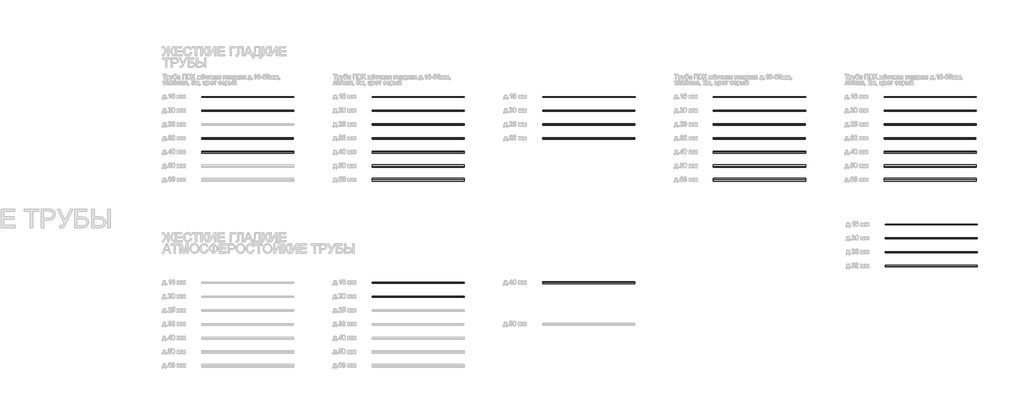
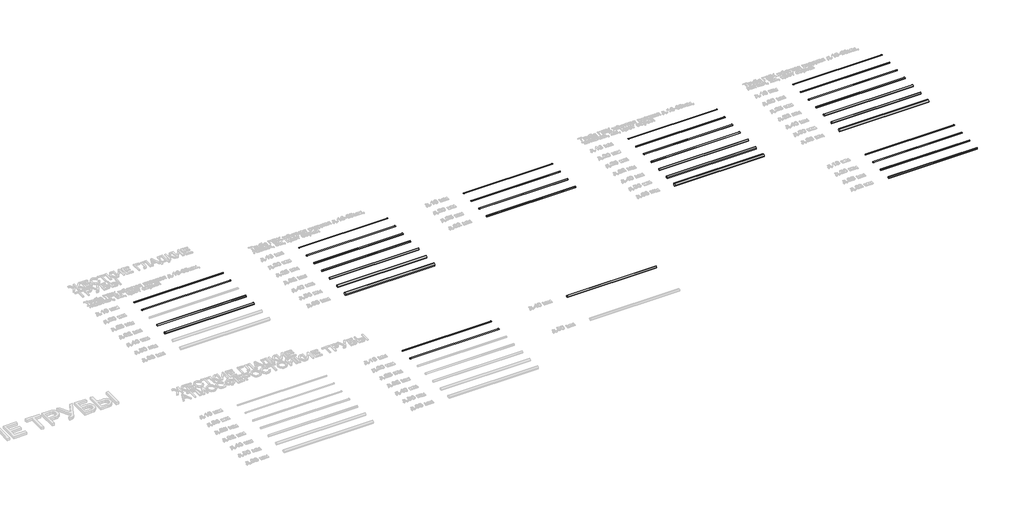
# One storey, part 4 of 98: 36 cable carrier segments.
"""IFC4 building model written with IfcOpenShell, lengths in millimetres."""

from ifc_helpers import new_model, si_unit, point, frame, frame_2d, origin, place, context, project, spatial, circle_curve, trimmed, segment, composite_curve, outline, extrude, element, save

model = new_model("IFC4")

# Units and contexts
model_context = context("Model", 3, world=origin())
ifc_project = project(units=[si_unit("LENGTHUNIT", "METRE", prefix="MILLI")], contexts=[model_context])

# Site, building, storey
site = spatial("IfcSite", under=ifc_project)
building = spatial("IfcBuilding", under=site)
storey = spatial("IfcBuildingStorey", under=building, Name="Этаж 01", Elevation=0.0)

# Cable carrier segments
placement = place(None, origin())
element("IfcCableCarrierSegment", 1, ObjectType="КНС_Труба ПВХ жёсткая гладкая_DKC_д.16-63мм тяжёлая 3м цвет серый", at=placement, inside=storey, context=model_context, shape_type="SweptSolid", body=[
    extrude(outline(composite_curve([segment(trimmed(circle_curve(frame_2d((-3603.5230932, 0.0)), 8.0), [point((-3611.5230932, 0.0))], [point((-3603.5230932, 8.0))], False, "CARTESIAN"), True, "CONTINUOUS"), segment(trimmed(circle_curve(frame_2d((-3603.5230932, 0.0)), 8.0), [point((-3603.5230932, 8.0))], [point((-3595.5230932, 0.0))], False, "CARTESIAN"), True, "CONTINUOUS"), segment(trimmed(circle_curve(frame_2d((-3603.5230932, 0.0)), 8.0), [point((-3595.5230932, 0.0))], [point((-3603.5230932, -8.0))], False, "CARTESIAN"), True, "CONTINUOUS"), segment(trimmed(circle_curve(frame_2d((-3603.5230932, 0.0)), 8.0), [point((-3603.5230932, -8.0))], [point((-3611.5230932, 0.0))], False, "CARTESIAN"), True, "CONTINUOUS")], self_intersect=False)), frame((803.8155149, 0.0, 0.0), z_axis=(1.0, 0.0, 0.0), x_axis=(0.0, 1.0, 0.0)), (0.0, 0.0, 1.0), 2000.0),
])
element("IfcCableCarrierSegment", 2, ObjectType="КНС_Труба ПВХ жёсткая гладкая_DKC_д.16-63мм тяжёлая 3м цвет серый", at=placement, inside=storey, context=model_context, shape_type="SweptSolid", body=[
    extrude(outline(composite_curve([segment(trimmed(circle_curve(frame_2d((-3903.5230932, 0.0)), 10.0), [point((-3913.5230932, 0.0))], [point((-3903.5230932, 10.0))], False, "CARTESIAN"), True, "CONTINUOUS"), segment(trimmed(circle_curve(frame_2d((-3903.5230932, 0.0)), 10.0), [point((-3903.5230932, 10.0))], [point((-3893.5230932, 0.0))], False, "CARTESIAN"), True, "CONTINUOUS"), segment(trimmed(circle_curve(frame_2d((-3903.5230932, 0.0)), 10.0), [point((-3893.5230932, 0.0))], [point((-3903.5230932, -10.0))], False, "CARTESIAN"), True, "CONTINUOUS"), segment(trimmed(circle_curve(frame_2d((-3903.5230932, 0.0)), 10.0), [point((-3903.5230932, -10.0))], [point((-3913.5230932, 0.0))], False, "CARTESIAN"), True, "CONTINUOUS")], self_intersect=False)), frame((803.8155149, 0.0, 0.0), z_axis=(1.0, 0.0, 0.0), x_axis=(0.0, 1.0, 0.0)), (0.0, 0.0, 1.0), 1998.0),
])
element("IfcCableCarrierSegment", 3, ObjectType="КНС_Труба ПВХ жёсткая гладкая_DKC_д.16-63мм тяжёлая 3м цвет серый", at=placement, inside=storey, context=model_context, shape_type="SweptSolid", body=[
    extrude(outline(composite_curve([segment(trimmed(circle_curve(frame_2d((-4503.5230932, 0.0)), 16.0), [point((-4519.5230932, 0.0))], [point((-4503.5230932, 16.0))], False, "CARTESIAN"), True, "CONTINUOUS"), segment(trimmed(circle_curve(frame_2d((-4503.5230932, 0.0)), 16.0), [point((-4503.5230932, 16.0))], [point((-4487.5230932, 0.0))], False, "CARTESIAN"), True, "CONTINUOUS"), segment(trimmed(circle_curve(frame_2d((-4503.5230932, 0.0)), 16.0), [point((-4487.5230932, 0.0))], [point((-4503.5230932, -16.0))], False, "CARTESIAN"), True, "CONTINUOUS"), segment(trimmed(circle_curve(frame_2d((-4503.5230932, 0.0)), 16.0), [point((-4503.5230932, -16.0))], [point((-4519.5230932, 0.0))], False, "CARTESIAN"), True, "CONTINUOUS")], self_intersect=False)), frame((803.8155149, 0.0, 0.0), z_axis=(1.0, 0.0, 0.0), x_axis=(0.0, 1.0, 0.0)), (0.0, 0.0, 1.0), 1991.0),
])
element("IfcCableCarrierSegment", 4, ObjectType="КНС_Труба ПВХ жёсткая гладкая_DKC_д.16-63мм тяжёлая 3м цвет серый", at=placement, inside=storey, context=model_context, shape_type="SweptSolid", body=[
    extrude(outline(composite_curve([segment(trimmed(circle_curve(frame_2d((-4803.5230932, 0.0)), 20.0), [point((-4823.5230932, 0.0))], [point((-4803.5230932, 20.0))], False, "CARTESIAN"), True, "CONTINUOUS"), segment(trimmed(circle_curve(frame_2d((-4803.5230932, 0.0)), 20.0), [point((-4803.5230932, 20.0))], [point((-4783.5230932, 0.0))], False, "CARTESIAN"), True, "CONTINUOUS"), segment(trimmed(circle_curve(frame_2d((-4803.5230932, 0.0)), 20.0), [point((-4783.5230932, 0.0))], [point((-4803.5230932, -20.0))], False, "CARTESIAN"), True, "CONTINUOUS"), segment(trimmed(circle_curve(frame_2d((-4803.5230932, 0.0)), 20.0), [point((-4803.5230932, -20.0))], [point((-4823.5230932, 0.0))], False, "CARTESIAN"), True, "CONTINUOUS")], self_intersect=False)), frame((803.8155149, 0.0, 0.0), z_axis=(1.0, 0.0, 0.0), x_axis=(0.0, 1.0, 0.0)), (0.0, 0.0, 1.0), 2000.0),
])
element("IfcCableCarrierSegment", 5, ObjectType="КНС_Труба ПВХ жёсткая гладкая_DKC_д.16-63мм лёгкая 3м цвет серый", at=placement, inside=storey, context=model_context, shape_type="SweptSolid", body=[
    extrude(outline(composite_curve([segment(trimmed(circle_curve(frame_2d((-3603.5230932, 0.0)), 8.0), [point((-3611.5230932, 0.0))], [point((-3603.5230932, 8.0))], False, "CARTESIAN"), True, "CONTINUOUS"), segment(trimmed(circle_curve(frame_2d((-3603.5230932, 0.0)), 8.0), [point((-3603.5230932, 8.0))], [point((-3595.5230932, 0.0))], False, "CARTESIAN"), True, "CONTINUOUS"), segment(trimmed(circle_curve(frame_2d((-3603.5230932, 0.0)), 8.0), [point((-3595.5230932, 0.0))], [point((-3603.5230932, -8.0))], False, "CARTESIAN"), True, "CONTINUOUS"), segment(trimmed(circle_curve(frame_2d((-3603.5230932, 0.0)), 8.0), [point((-3603.5230932, -8.0))], [point((-3611.5230932, 0.0))], False, "CARTESIAN"), True, "CONTINUOUS")], self_intersect=False)), frame((4503.8155149, 0.0, 0.0), z_axis=(1.0, 0.0, 0.0), x_axis=(0.0, 1.0, 0.0)), (0.0, 0.0, 1.0), 2000.0),
])
element("IfcCableCarrierSegment", 6, ObjectType="КНС_Труба ПВХ жёсткая гладкая_DKC_д.16-63мм лёгкая 3м цвет серый", at=placement, inside=storey, context=model_context, shape_type="SweptSolid", body=[
    extrude(outline(composite_curve([segment(trimmed(circle_curve(frame_2d((-3903.5230932, 0.0)), 10.0), [point((-3913.5230932, 0.0))], [point((-3903.5230932, 10.0))], False, "CARTESIAN"), True, "CONTINUOUS"), segment(trimmed(circle_curve(frame_2d((-3903.5230932, 0.0)), 10.0), [point((-3903.5230932, 10.0))], [point((-3893.5230932, 0.0))], False, "CARTESIAN"), True, "CONTINUOUS"), segment(trimmed(circle_curve(frame_2d((-3903.5230932, 0.0)), 10.0), [point((-3893.5230932, 0.0))], [point((-3903.5230932, -10.0))], False, "CARTESIAN"), True, "CONTINUOUS"), segment(trimmed(circle_curve(frame_2d((-3903.5230932, 0.0)), 10.0), [point((-3903.5230932, -10.0))], [point((-3913.5230932, 0.0))], False, "CARTESIAN"), True, "CONTINUOUS")], self_intersect=False)), frame((4503.8155149, 0.0, 0.0), z_axis=(1.0, 0.0, 0.0), x_axis=(0.0, 1.0, 0.0)), (0.0, 0.0, 1.0), 1998.0),
])
element("IfcCableCarrierSegment", 7, ObjectType="КНС_Труба ПВХ жёсткая гладкая_DKC_д.16-63мм лёгкая 3м цвет серый", at=placement, inside=storey, context=model_context, shape_type="SweptSolid", body=[
    extrude(outline(composite_curve([segment(trimmed(circle_curve(frame_2d((-4203.5230932, 0.0)), 12.5), [point((-4216.0230932, 0.0))], [point((-4203.5230932, 12.5))], False, "CARTESIAN"), True, "CONTINUOUS"), segment(trimmed(circle_curve(frame_2d((-4203.5230932, 0.0)), 12.5), [point((-4203.5230932, 12.5))], [point((-4191.0230932, 0.0))], False, "CARTESIAN"), True, "CONTINUOUS"), segment(trimmed(circle_curve(frame_2d((-4203.5230932, 0.0)), 12.5), [point((-4191.0230932, 0.0))], [point((-4203.5230932, -12.5))], False, "CARTESIAN"), True, "CONTINUOUS"), segment(trimmed(circle_curve(frame_2d((-4203.5230932, 0.0)), 12.5), [point((-4203.5230932, -12.5))], [point((-4216.0230932, 0.0))], False, "CARTESIAN"), True, "CONTINUOUS")], self_intersect=False)), frame((4503.8155149, 0.0, 0.0), z_axis=(1.0, 0.0, 0.0), x_axis=(0.0, 1.0, 0.0)), (0.0, 0.0, 1.0), 1995.0),
])
element("IfcCableCarrierSegment", 8, ObjectType="КНС_Труба ПВХ жёсткая гладкая_DKC_д.16-63мм лёгкая 3м цвет серый", at=placement, inside=storey, context=model_context, shape_type="SweptSolid", body=[
    extrude(outline(composite_curve([segment(trimmed(circle_curve(frame_2d((-4503.5230932, 0.0)), 16.0), [point((-4519.5230932, 0.0))], [point((-4503.5230932, 16.0))], False, "CARTESIAN"), True, "CONTINUOUS"), segment(trimmed(circle_curve(frame_2d((-4503.5230932, 0.0)), 16.0), [point((-4503.5230932, 16.0))], [point((-4487.5230932, 0.0))], False, "CARTESIAN"), True, "CONTINUOUS"), segment(trimmed(circle_curve(frame_2d((-4503.5230932, 0.0)), 16.0), [point((-4487.5230932, 0.0))], [point((-4503.5230932, -16.0))], False, "CARTESIAN"), True, "CONTINUOUS"), segment(trimmed(circle_curve(frame_2d((-4503.5230932, 0.0)), 16.0), [point((-4503.5230932, -16.0))], [point((-4519.5230932, 0.0))], False, "CARTESIAN"), True, "CONTINUOUS")], self_intersect=False)), frame((4503.8155149, 0.0, 0.0), z_axis=(1.0, 0.0, 0.0), x_axis=(0.0, 1.0, 0.0)), (0.0, 0.0, 1.0), 1991.0),
])
element("IfcCableCarrierSegment", 9, ObjectType="КНС_Труба ПВХ жёсткая гладкая_DKC_д.16-63мм лёгкая 3м цвет серый", at=placement, inside=storey, context=model_context, shape_type="SweptSolid", body=[
    extrude(outline(composite_curve([segment(trimmed(circle_curve(frame_2d((-4803.5230932, 0.0)), 20.0), [point((-4823.5230932, 0.0))], [point((-4803.5230932, 20.0))], False, "CARTESIAN"), True, "CONTINUOUS"), segment(trimmed(circle_curve(frame_2d((-4803.5230932, 0.0)), 20.0), [point((-4803.5230932, 20.0))], [point((-4783.5230932, 0.0))], False, "CARTESIAN"), True, "CONTINUOUS"), segment(trimmed(circle_curve(frame_2d((-4803.5230932, 0.0)), 20.0), [point((-4783.5230932, 0.0))], [point((-4803.5230932, -20.0))], False, "CARTESIAN"), True, "CONTINUOUS"), segment(trimmed(circle_curve(frame_2d((-4803.5230932, 0.0)), 20.0), [point((-4803.5230932, -20.0))], [point((-4823.5230932, 0.0))], False, "CARTESIAN"), True, "CONTINUOUS")], self_intersect=False)), frame((4503.8155149, 0.0, 0.0), z_axis=(1.0, 0.0, 0.0), x_axis=(0.0, 1.0, 0.0)), (0.0, 0.0, 1.0), 2000.0),
])
element("IfcCableCarrierSegment", 10, ObjectType="КНС_Труба ПВХ жёсткая гладкая_DKC_д.16-63мм лёгкая 3м цвет серый", at=placement, inside=storey, context=model_context, shape_type="SweptSolid", body=[
    extrude(outline(composite_curve([segment(trimmed(circle_curve(frame_2d((-5103.5230932, 0.0)), 25.0), [point((-5128.5230932, 0.0))], [point((-5103.5230932, 25.0))], False, "CARTESIAN"), True, "CONTINUOUS"), segment(trimmed(circle_curve(frame_2d((-5103.5230932, 0.0)), 25.0), [point((-5103.5230932, 25.0))], [point((-5078.5230932, 0.0))], False, "CARTESIAN"), True, "CONTINUOUS"), segment(trimmed(circle_curve(frame_2d((-5103.5230932, 0.0)), 25.0), [point((-5078.5230932, 0.0))], [point((-5103.5230932, -25.0))], False, "CARTESIAN"), True, "CONTINUOUS"), segment(trimmed(circle_curve(frame_2d((-5103.5230932, 0.0)), 25.0), [point((-5103.5230932, -25.0))], [point((-5128.5230932, 0.0))], False, "CARTESIAN"), True, "CONTINUOUS")], self_intersect=False)), frame((4503.8155149, 0.0, 0.0), z_axis=(1.0, 0.0, 0.0), x_axis=(0.0, 1.0, 0.0)), (0.0, 0.0, 1.0), 2000.0),
])
element("IfcCableCarrierSegment", 11, ObjectType="КНС_Труба ПВХ жёсткая гладкая_DKC_д.16-63мм лёгкая 3м цвет серый", at=placement, inside=storey, context=model_context, shape_type="SweptSolid", body=[
    extrude(outline(composite_curve([segment(trimmed(circle_curve(frame_2d((-5403.5230932, 0.0)), 31.5), [point((-5435.0230932, 0.0))], [point((-5403.5230932, 31.5))], False, "CARTESIAN"), True, "CONTINUOUS"), segment(trimmed(circle_curve(frame_2d((-5403.5230932, 0.0)), 31.5), [point((-5403.5230932, 31.5))], [point((-5372.0230932, 0.0))], False, "CARTESIAN"), True, "CONTINUOUS"), segment(trimmed(circle_curve(frame_2d((-5403.5230932, 0.0)), 31.5), [point((-5372.0230932, 0.0))], [point((-5403.5230932, -31.5))], False, "CARTESIAN"), True, "CONTINUOUS"), segment(trimmed(circle_curve(frame_2d((-5403.5230932, 0.0)), 31.5), [point((-5403.5230932, -31.5))], [point((-5435.0230932, 0.0))], False, "CARTESIAN"), True, "CONTINUOUS")], self_intersect=False)), frame((4503.8155149, 0.0, 0.0), z_axis=(1.0, 0.0, 0.0), x_axis=(0.0, 1.0, 0.0)), (0.0, 0.0, 1.0), 2000.0),
])
element("IfcCableCarrierSegment", 12, ObjectType="КНС_Труба ПВХ жёсткая гладкая_DKC_д.16-32мм лёгкая 3м цвет серый (розница)", at=placement, inside=storey, context=model_context, shape_type="SweptSolid", body=[
    extrude(outline(composite_curve([segment(trimmed(circle_curve(frame_2d((-3603.5230932, 0.0)), 8.0), [point((-3611.5230932, 0.0))], [point((-3603.5230932, 8.0))], False, "CARTESIAN"), True, "CONTINUOUS"), segment(trimmed(circle_curve(frame_2d((-3603.5230932, 0.0)), 8.0), [point((-3603.5230932, 8.0))], [point((-3595.5230932, 0.0))], False, "CARTESIAN"), True, "CONTINUOUS"), segment(trimmed(circle_curve(frame_2d((-3603.5230932, 0.0)), 8.0), [point((-3595.5230932, 0.0))], [point((-3603.5230932, -8.0))], False, "CARTESIAN"), True, "CONTINUOUS"), segment(trimmed(circle_curve(frame_2d((-3603.5230932, 0.0)), 8.0), [point((-3603.5230932, -8.0))], [point((-3611.5230932, 0.0))], False, "CARTESIAN"), True, "CONTINUOUS")], self_intersect=False)), frame((8203.8155149, 0.0, 0.0), z_axis=(1.0, 0.0, 0.0), x_axis=(0.0, 1.0, 0.0)), (0.0, 0.0, 1.0), 2000.0),
])
element("IfcCableCarrierSegment", 13, ObjectType="КНС_Труба ПВХ жёсткая гладкая_DKC_д.16-32мм лёгкая 3м цвет серый (розница)", at=placement, inside=storey, context=model_context, shape_type="SweptSolid", body=[
    extrude(outline(composite_curve([segment(trimmed(circle_curve(frame_2d((-3903.5230932, 0.0)), 10.0), [point((-3913.5230932, 0.0))], [point((-3903.5230932, 10.0))], False, "CARTESIAN"), True, "CONTINUOUS"), segment(trimmed(circle_curve(frame_2d((-3903.5230932, 0.0)), 10.0), [point((-3903.5230932, 10.0))], [point((-3893.5230932, 0.0))], False, "CARTESIAN"), True, "CONTINUOUS"), segment(trimmed(circle_curve(frame_2d((-3903.5230932, 0.0)), 10.0), [point((-3893.5230932, 0.0))], [point((-3903.5230932, -10.0))], False, "CARTESIAN"), True, "CONTINUOUS"), segment(trimmed(circle_curve(frame_2d((-3903.5230932, 0.0)), 10.0), [point((-3903.5230932, -10.0))], [point((-3913.5230932, 0.0))], False, "CARTESIAN"), True, "CONTINUOUS")], self_intersect=False)), frame((8203.8155149, 0.0, 0.0), z_axis=(1.0, 0.0, 0.0), x_axis=(0.0, 1.0, 0.0)), (0.0, 0.0, 1.0), 1998.0),
])
element("IfcCableCarrierSegment", 14, ObjectType="КНС_Труба ПВХ жёсткая гладкая_DKC_д.16-32мм лёгкая 3м цвет серый (розница)", at=placement, inside=storey, context=model_context, shape_type="SweptSolid", body=[
    extrude(outline(composite_curve([segment(trimmed(circle_curve(frame_2d((-4203.5230932, 0.0)), 12.5), [point((-4216.0230932, 0.0))], [point((-4203.5230932, 12.5))], False, "CARTESIAN"), True, "CONTINUOUS"), segment(trimmed(circle_curve(frame_2d((-4203.5230932, 0.0)), 12.5), [point((-4203.5230932, 12.5))], [point((-4191.0230932, 0.0))], False, "CARTESIAN"), True, "CONTINUOUS"), segment(trimmed(circle_curve(frame_2d((-4203.5230932, 0.0)), 12.5), [point((-4191.0230932, 0.0))], [point((-4203.5230932, -12.5))], False, "CARTESIAN"), True, "CONTINUOUS"), segment(trimmed(circle_curve(frame_2d((-4203.5230932, 0.0)), 12.5), [point((-4203.5230932, -12.5))], [point((-4216.0230932, 0.0))], False, "CARTESIAN"), True, "CONTINUOUS")], self_intersect=False)), frame((8203.8155149, 0.0, 0.0), z_axis=(1.0, 0.0, 0.0), x_axis=(0.0, 1.0, 0.0)), (0.0, 0.0, 1.0), 1995.0),
])
element("IfcCableCarrierSegment", 15, ObjectType="КНС_Труба ПВХ жёсткая гладкая_DKC_д.16-32мм лёгкая 3м цвет серый (розница)", at=placement, inside=storey, context=model_context, shape_type="SweptSolid", body=[
    extrude(outline(composite_curve([segment(trimmed(circle_curve(frame_2d((-4503.5230932, 0.0)), 16.0), [point((-4519.5230932, 0.0))], [point((-4503.5230932, 16.0))], False, "CARTESIAN"), True, "CONTINUOUS"), segment(trimmed(circle_curve(frame_2d((-4503.5230932, 0.0)), 16.0), [point((-4503.5230932, 16.0))], [point((-4487.5230932, 0.0))], False, "CARTESIAN"), True, "CONTINUOUS"), segment(trimmed(circle_curve(frame_2d((-4503.5230932, 0.0)), 16.0), [point((-4487.5230932, 0.0))], [point((-4503.5230932, -16.0))], False, "CARTESIAN"), True, "CONTINUOUS"), segment(trimmed(circle_curve(frame_2d((-4503.5230932, 0.0)), 16.0), [point((-4503.5230932, -16.0))], [point((-4519.5230932, 0.0))], False, "CARTESIAN"), True, "CONTINUOUS")], self_intersect=False)), frame((8203.8155149, 0.0, 0.0), z_axis=(1.0, 0.0, 0.0), x_axis=(0.0, 1.0, 0.0)), (0.0, 0.0, 1.0), 1991.0),
])
element("IfcCableCarrierSegment", 16, ObjectType="КНС_Труба ПВХ жёсткая гладкая_DKC_д.16-63мм тяжёлая 2м цвет серый", at=placement, inside=storey, context=model_context, shape_type="SweptSolid", body=[
    extrude(outline(composite_curve([segment(trimmed(circle_curve(frame_2d((-3603.5230932, 0.0)), 8.0), [point((-3611.5230932, 0.0))], [point((-3603.5230932, 8.0))], False, "CARTESIAN"), True, "CONTINUOUS"), segment(trimmed(circle_curve(frame_2d((-3603.5230932, 0.0)), 8.0), [point((-3603.5230932, 8.0))], [point((-3595.5230932, 0.0))], False, "CARTESIAN"), True, "CONTINUOUS"), segment(trimmed(circle_curve(frame_2d((-3603.5230932, 0.0)), 8.0), [point((-3595.5230932, 0.0))], [point((-3603.5230932, -8.0))], False, "CARTESIAN"), True, "CONTINUOUS"), segment(trimmed(circle_curve(frame_2d((-3603.5230932, 0.0)), 8.0), [point((-3603.5230932, -8.0))], [point((-3611.5230932, 0.0))], False, "CARTESIAN"), True, "CONTINUOUS")], self_intersect=False)), frame((11903.8155149, 0.0, 0.0), z_axis=(1.0, 0.0, 0.0), x_axis=(0.0, 1.0, 0.0)), (0.0, 0.0, 1.0), 2000.0),
])
element("IfcCableCarrierSegment", 17, ObjectType="КНС_Труба ПВХ жёсткая гладкая_DKC_д.16-63мм тяжёлая 2м цвет серый", at=placement, inside=storey, context=model_context, shape_type="SweptSolid", body=[
    extrude(outline(composite_curve([segment(trimmed(circle_curve(frame_2d((-3903.5230932, 0.0)), 10.0), [point((-3913.5230932, 0.0))], [point((-3903.5230932, 10.0))], False, "CARTESIAN"), True, "CONTINUOUS"), segment(trimmed(circle_curve(frame_2d((-3903.5230932, 0.0)), 10.0), [point((-3903.5230932, 10.0))], [point((-3893.5230932, 0.0))], False, "CARTESIAN"), True, "CONTINUOUS"), segment(trimmed(circle_curve(frame_2d((-3903.5230932, 0.0)), 10.0), [point((-3893.5230932, 0.0))], [point((-3903.5230932, -10.0))], False, "CARTESIAN"), True, "CONTINUOUS"), segment(trimmed(circle_curve(frame_2d((-3903.5230932, 0.0)), 10.0), [point((-3903.5230932, -10.0))], [point((-3913.5230932, 0.0))], False, "CARTESIAN"), True, "CONTINUOUS")], self_intersect=False)), frame((11903.8155149, 0.0, 0.0), z_axis=(1.0, 0.0, 0.0), x_axis=(0.0, 1.0, 0.0)), (0.0, 0.0, 1.0), 1998.0),
])
element("IfcCableCarrierSegment", 18, ObjectType="КНС_Труба ПВХ жёсткая гладкая_DKC_д.16-63мм тяжёлая 2м цвет серый", at=placement, inside=storey, context=model_context, shape_type="SweptSolid", body=[
    extrude(outline(composite_curve([segment(trimmed(circle_curve(frame_2d((-4203.5230932, 0.0)), 12.5), [point((-4216.0230932, 0.0))], [point((-4203.5230932, 12.5))], False, "CARTESIAN"), True, "CONTINUOUS"), segment(trimmed(circle_curve(frame_2d((-4203.5230932, 0.0)), 12.5), [point((-4203.5230932, 12.5))], [point((-4191.0230932, 0.0))], False, "CARTESIAN"), True, "CONTINUOUS"), segment(trimmed(circle_curve(frame_2d((-4203.5230932, 0.0)), 12.5), [point((-4191.0230932, 0.0))], [point((-4203.5230932, -12.5))], False, "CARTESIAN"), True, "CONTINUOUS"), segment(trimmed(circle_curve(frame_2d((-4203.5230932, 0.0)), 12.5), [point((-4203.5230932, -12.5))], [point((-4216.0230932, 0.0))], False, "CARTESIAN"), True, "CONTINUOUS")], self_intersect=False)), frame((11903.8155149, 0.0, 0.0), z_axis=(1.0, 0.0, 0.0), x_axis=(0.0, 1.0, 0.0)), (0.0, 0.0, 1.0), 1995.0),
])
element("IfcCableCarrierSegment", 19, ObjectType="КНС_Труба ПВХ жёсткая гладкая_DKC_д.16-63мм тяжёлая 2м цвет серый", at=placement, inside=storey, context=model_context, shape_type="SweptSolid", body=[
    extrude(outline(composite_curve([segment(trimmed(circle_curve(frame_2d((-4503.5230932, 0.0)), 16.0), [point((-4519.5230932, 0.0))], [point((-4503.5230932, 16.0))], False, "CARTESIAN"), True, "CONTINUOUS"), segment(trimmed(circle_curve(frame_2d((-4503.5230932, 0.0)), 16.0), [point((-4503.5230932, 16.0))], [point((-4487.5230932, 0.0))], False, "CARTESIAN"), True, "CONTINUOUS"), segment(trimmed(circle_curve(frame_2d((-4503.5230932, 0.0)), 16.0), [point((-4487.5230932, 0.0))], [point((-4503.5230932, -16.0))], False, "CARTESIAN"), True, "CONTINUOUS"), segment(trimmed(circle_curve(frame_2d((-4503.5230932, 0.0)), 16.0), [point((-4503.5230932, -16.0))], [point((-4519.5230932, 0.0))], False, "CARTESIAN"), True, "CONTINUOUS")], self_intersect=False)), frame((11903.8155149, 0.0, 0.0), z_axis=(1.0, 0.0, 0.0), x_axis=(0.0, 1.0, 0.0)), (0.0, 0.0, 1.0), 1991.0),
])
element("IfcCableCarrierSegment", 20, ObjectType="КНС_Труба ПВХ жёсткая гладкая_DKC_д.16-63мм тяжёлая 2м цвет серый", at=placement, inside=storey, context=model_context, shape_type="SweptSolid", body=[
    extrude(outline(composite_curve([segment(trimmed(circle_curve(frame_2d((-4803.5230932, 0.0)), 20.0), [point((-4823.5230932, 0.0))], [point((-4803.5230932, 20.0))], False, "CARTESIAN"), True, "CONTINUOUS"), segment(trimmed(circle_curve(frame_2d((-4803.5230932, 0.0)), 20.0), [point((-4803.5230932, 20.0))], [point((-4783.5230932, 0.0))], False, "CARTESIAN"), True, "CONTINUOUS"), segment(trimmed(circle_curve(frame_2d((-4803.5230932, 0.0)), 20.0), [point((-4783.5230932, 0.0))], [point((-4803.5230932, -20.0))], False, "CARTESIAN"), True, "CONTINUOUS"), segment(trimmed(circle_curve(frame_2d((-4803.5230932, 0.0)), 20.0), [point((-4803.5230932, -20.0))], [point((-4823.5230932, 0.0))], False, "CARTESIAN"), True, "CONTINUOUS")], self_intersect=False)), frame((11903.8155149, 0.0, 0.0), z_axis=(1.0, 0.0, 0.0), x_axis=(0.0, 1.0, 0.0)), (0.0, 0.0, 1.0), 2000.0),
])
element("IfcCableCarrierSegment", 21, ObjectType="КНС_Труба ПВХ жёсткая гладкая_DKC_д.16-63мм тяжёлая 2м цвет серый", at=placement, inside=storey, context=model_context, shape_type="SweptSolid", body=[
    extrude(outline(composite_curve([segment(trimmed(circle_curve(frame_2d((-5103.5230932, 0.0)), 25.0), [point((-5128.5230932, 0.0))], [point((-5103.5230932, 25.0))], False, "CARTESIAN"), True, "CONTINUOUS"), segment(trimmed(circle_curve(frame_2d((-5103.5230932, 0.0)), 25.0), [point((-5103.5230932, 25.0))], [point((-5078.5230932, 0.0))], False, "CARTESIAN"), True, "CONTINUOUS"), segment(trimmed(circle_curve(frame_2d((-5103.5230932, 0.0)), 25.0), [point((-5078.5230932, 0.0))], [point((-5103.5230932, -25.0))], False, "CARTESIAN"), True, "CONTINUOUS"), segment(trimmed(circle_curve(frame_2d((-5103.5230932, 0.0)), 25.0), [point((-5103.5230932, -25.0))], [point((-5128.5230932, 0.0))], False, "CARTESIAN"), True, "CONTINUOUS")], self_intersect=False)), frame((11903.8155149, 0.0, 0.0), z_axis=(1.0, 0.0, 0.0), x_axis=(0.0, 1.0, 0.0)), (0.0, 0.0, 1.0), 2000.0),
])
element("IfcCableCarrierSegment", 22, ObjectType="КНС_Труба ПВХ жёсткая гладкая_DKC_д.16-63мм тяжёлая 2м цвет серый", at=placement, inside=storey, context=model_context, shape_type="SweptSolid", body=[
    extrude(outline(composite_curve([segment(trimmed(circle_curve(frame_2d((-5403.5230932, 0.0)), 31.5), [point((-5435.0230932, 0.0))], [point((-5403.5230932, 31.5))], False, "CARTESIAN"), True, "CONTINUOUS"), segment(trimmed(circle_curve(frame_2d((-5403.5230932, 0.0)), 31.5), [point((-5403.5230932, 31.5))], [point((-5372.0230932, 0.0))], False, "CARTESIAN"), True, "CONTINUOUS"), segment(trimmed(circle_curve(frame_2d((-5403.5230932, 0.0)), 31.5), [point((-5372.0230932, 0.0))], [point((-5403.5230932, -31.5))], False, "CARTESIAN"), True, "CONTINUOUS"), segment(trimmed(circle_curve(frame_2d((-5403.5230932, 0.0)), 31.5), [point((-5403.5230932, -31.5))], [point((-5435.0230932, 0.0))], False, "CARTESIAN"), True, "CONTINUOUS")], self_intersect=False)), frame((11903.8155149, 0.0, 0.0), z_axis=(1.0, 0.0, 0.0), x_axis=(0.0, 1.0, 0.0)), (0.0, 0.0, 1.0), 2000.0),
])
element("IfcCableCarrierSegment", 23, ObjectType="КНС_Труба ПВХ жёсткая гладкая_DKC_д.16-63мм лёгкая 2м цвет серый", at=placement, inside=storey, context=model_context, shape_type="SweptSolid", body=[
    extrude(outline(composite_curve([segment(trimmed(circle_curve(frame_2d((-3603.5230932, 0.0)), 8.0), [point((-3611.5230932, 0.0))], [point((-3603.5230932, 8.0))], False, "CARTESIAN"), True, "CONTINUOUS"), segment(trimmed(circle_curve(frame_2d((-3603.5230932, 0.0)), 8.0), [point((-3603.5230932, 8.0))], [point((-3595.5230932, 0.0))], False, "CARTESIAN"), True, "CONTINUOUS"), segment(trimmed(circle_curve(frame_2d((-3603.5230932, 0.0)), 8.0), [point((-3595.5230932, 0.0))], [point((-3603.5230932, -8.0))], False, "CARTESIAN"), True, "CONTINUOUS"), segment(trimmed(circle_curve(frame_2d((-3603.5230932, 0.0)), 8.0), [point((-3603.5230932, -8.0))], [point((-3611.5230932, 0.0))], False, "CARTESIAN"), True, "CONTINUOUS")], self_intersect=False)), frame((15603.8155149, 0.0, 0.0), z_axis=(1.0, 0.0, 0.0), x_axis=(0.0, 1.0, 0.0)), (0.0, 0.0, 1.0), 2000.0),
])
element("IfcCableCarrierSegment", 24, ObjectType="КНС_Труба ПВХ жёсткая гладкая_DKC_д.16-63мм лёгкая 2м цвет серый", at=placement, inside=storey, context=model_context, shape_type="SweptSolid", body=[
    extrude(outline(composite_curve([segment(trimmed(circle_curve(frame_2d((-3903.5230932, 0.0)), 10.0), [point((-3913.5230932, 0.0))], [point((-3903.5230932, 10.0))], False, "CARTESIAN"), True, "CONTINUOUS"), segment(trimmed(circle_curve(frame_2d((-3903.5230932, 0.0)), 10.0), [point((-3903.5230932, 10.0))], [point((-3893.5230932, 0.0))], False, "CARTESIAN"), True, "CONTINUOUS"), segment(trimmed(circle_curve(frame_2d((-3903.5230932, 0.0)), 10.0), [point((-3893.5230932, 0.0))], [point((-3903.5230932, -10.0))], False, "CARTESIAN"), True, "CONTINUOUS"), segment(trimmed(circle_curve(frame_2d((-3903.5230932, 0.0)), 10.0), [point((-3903.5230932, -10.0))], [point((-3913.5230932, 0.0))], False, "CARTESIAN"), True, "CONTINUOUS")], self_intersect=False)), frame((15603.8155149, 0.0, 0.0), z_axis=(1.0, 0.0, 0.0), x_axis=(0.0, 1.0, 0.0)), (0.0, 0.0, 1.0), 1998.0),
])
element("IfcCableCarrierSegment", 25, ObjectType="КНС_Труба ПВХ жёсткая гладкая_DKC_д.16-63мм лёгкая 2м цвет серый", at=placement, inside=storey, context=model_context, shape_type="SweptSolid", body=[
    extrude(outline(composite_curve([segment(trimmed(circle_curve(frame_2d((-4203.5230932, 0.0)), 12.5), [point((-4216.0230932, 0.0))], [point((-4203.5230932, 12.5))], False, "CARTESIAN"), True, "CONTINUOUS"), segment(trimmed(circle_curve(frame_2d((-4203.5230932, 0.0)), 12.5), [point((-4203.5230932, 12.5))], [point((-4191.0230932, 0.0))], False, "CARTESIAN"), True, "CONTINUOUS"), segment(trimmed(circle_curve(frame_2d((-4203.5230932, 0.0)), 12.5), [point((-4191.0230932, 0.0))], [point((-4203.5230932, -12.5))], False, "CARTESIAN"), True, "CONTINUOUS"), segment(trimmed(circle_curve(frame_2d((-4203.5230932, 0.0)), 12.5), [point((-4203.5230932, -12.5))], [point((-4216.0230932, 0.0))], False, "CARTESIAN"), True, "CONTINUOUS")], self_intersect=False)), frame((15603.8155149, 0.0, 0.0), z_axis=(1.0, 0.0, 0.0), x_axis=(0.0, 1.0, 0.0)), (0.0, 0.0, 1.0), 1995.0),
])
element("IfcCableCarrierSegment", 26, ObjectType="КНС_Труба ПВХ жёсткая гладкая_DKC_д.16-63мм лёгкая 2м цвет серый", at=placement, inside=storey, context=model_context, shape_type="SweptSolid", body=[
    extrude(outline(composite_curve([segment(trimmed(circle_curve(frame_2d((-4503.5230932, 0.0)), 16.0), [point((-4519.5230932, 0.0))], [point((-4503.5230932, 16.0))], False, "CARTESIAN"), True, "CONTINUOUS"), segment(trimmed(circle_curve(frame_2d((-4503.5230932, 0.0)), 16.0), [point((-4503.5230932, 16.0))], [point((-4487.5230932, 0.0))], False, "CARTESIAN"), True, "CONTINUOUS"), segment(trimmed(circle_curve(frame_2d((-4503.5230932, 0.0)), 16.0), [point((-4487.5230932, 0.0))], [point((-4503.5230932, -16.0))], False, "CARTESIAN"), True, "CONTINUOUS"), segment(trimmed(circle_curve(frame_2d((-4503.5230932, 0.0)), 16.0), [point((-4503.5230932, -16.0))], [point((-4519.5230932, 0.0))], False, "CARTESIAN"), True, "CONTINUOUS")], self_intersect=False)), frame((15603.8155149, 0.0, 0.0), z_axis=(1.0, 0.0, 0.0), x_axis=(0.0, 1.0, 0.0)), (0.0, 0.0, 1.0), 1991.0),
])
element("IfcCableCarrierSegment", 27, ObjectType="КНС_Труба ПВХ жёсткая гладкая_DKC_д.16-63мм лёгкая 2м цвет серый", at=placement, inside=storey, context=model_context, shape_type="SweptSolid", body=[
    extrude(outline(composite_curve([segment(trimmed(circle_curve(frame_2d((-4803.5230932, 0.0)), 20.0), [point((-4823.5230932, 0.0))], [point((-4803.5230932, 20.0))], False, "CARTESIAN"), True, "CONTINUOUS"), segment(trimmed(circle_curve(frame_2d((-4803.5230932, 0.0)), 20.0), [point((-4803.5230932, 20.0))], [point((-4783.5230932, 0.0))], False, "CARTESIAN"), True, "CONTINUOUS"), segment(trimmed(circle_curve(frame_2d((-4803.5230932, 0.0)), 20.0), [point((-4783.5230932, 0.0))], [point((-4803.5230932, -20.0))], False, "CARTESIAN"), True, "CONTINUOUS"), segment(trimmed(circle_curve(frame_2d((-4803.5230932, 0.0)), 20.0), [point((-4803.5230932, -20.0))], [point((-4823.5230932, 0.0))], False, "CARTESIAN"), True, "CONTINUOUS")], self_intersect=False)), frame((15603.8155149, 0.0, 0.0), z_axis=(1.0, 0.0, 0.0), x_axis=(0.0, 1.0, 0.0)), (0.0, 0.0, 1.0), 2000.0),
])
element("IfcCableCarrierSegment", 28, ObjectType="КНС_Труба ПВХ жёсткая гладкая_DKC_д.16-63мм лёгкая 2м цвет серый", at=placement, inside=storey, context=model_context, shape_type="SweptSolid", body=[
    extrude(outline(composite_curve([segment(trimmed(circle_curve(frame_2d((-5103.5230932, 0.0)), 25.0), [point((-5128.5230932, 0.0))], [point((-5103.5230932, 25.0))], False, "CARTESIAN"), True, "CONTINUOUS"), segment(trimmed(circle_curve(frame_2d((-5103.5230932, 0.0)), 25.0), [point((-5103.5230932, 25.0))], [point((-5078.5230932, 0.0))], False, "CARTESIAN"), True, "CONTINUOUS"), segment(trimmed(circle_curve(frame_2d((-5103.5230932, 0.0)), 25.0), [point((-5078.5230932, 0.0))], [point((-5103.5230932, -25.0))], False, "CARTESIAN"), True, "CONTINUOUS"), segment(trimmed(circle_curve(frame_2d((-5103.5230932, 0.0)), 25.0), [point((-5103.5230932, -25.0))], [point((-5128.5230932, 0.0))], False, "CARTESIAN"), True, "CONTINUOUS")], self_intersect=False)), frame((15603.8155149, 0.0, 0.0), z_axis=(1.0, 0.0, 0.0), x_axis=(0.0, 1.0, 0.0)), (0.0, 0.0, 1.0), 2000.0),
])
element("IfcCableCarrierSegment", 29, ObjectType="КНС_Труба ПВХ жёсткая гладкая_DKC_д.16-63мм лёгкая 2м цвет серый", at=placement, inside=storey, context=model_context, shape_type="SweptSolid", body=[
    extrude(outline(composite_curve([segment(trimmed(circle_curve(frame_2d((-5403.5230932, 0.0)), 31.5), [point((-5435.0230932, 0.0))], [point((-5403.5230932, 31.5))], False, "CARTESIAN"), True, "CONTINUOUS"), segment(trimmed(circle_curve(frame_2d((-5403.5230932, 0.0)), 31.5), [point((-5403.5230932, 31.5))], [point((-5372.0230932, 0.0))], False, "CARTESIAN"), True, "CONTINUOUS"), segment(trimmed(circle_curve(frame_2d((-5403.5230932, 0.0)), 31.5), [point((-5372.0230932, 0.0))], [point((-5403.5230932, -31.5))], False, "CARTESIAN"), True, "CONTINUOUS"), segment(trimmed(circle_curve(frame_2d((-5403.5230932, 0.0)), 31.5), [point((-5403.5230932, -31.5))], [point((-5435.0230932, 0.0))], False, "CARTESIAN"), True, "CONTINUOUS")], self_intersect=False)), frame((15603.8155149, 0.0, 0.0), z_axis=(1.0, 0.0, 0.0), x_axis=(0.0, 1.0, 0.0)), (0.0, 0.0, 1.0), 2000.0),
])
element("IfcCableCarrierSegment", 30, ObjectType="КНС_Труба ПВХ жёсткая гладкая_DKC_д.16-32мм лёгкая 2м цвет серый (розница)", at=placement, inside=storey, context=model_context, shape_type="SweptSolid", body=[
    extrude(outline(composite_curve([segment(trimmed(circle_curve(frame_2d((-6371.8721997, 0.0)), 8.0), [point((-6379.8721997, 0.0))], [point((-6371.8721997, 8.0))], False, "CARTESIAN"), True, "CONTINUOUS"), segment(trimmed(circle_curve(frame_2d((-6371.8721997, 0.0)), 8.0), [point((-6371.8721997, 8.0))], [point((-6363.8721997, 0.0))], False, "CARTESIAN"), True, "CONTINUOUS"), segment(trimmed(circle_curve(frame_2d((-6371.8721997, 0.0)), 8.0), [point((-6363.8721997, 0.0))], [point((-6371.8721997, -8.0))], False, "CARTESIAN"), True, "CONTINUOUS"), segment(trimmed(circle_curve(frame_2d((-6371.8721997, 0.0)), 8.0), [point((-6371.8721997, -8.0))], [point((-6379.8721997, 0.0))], False, "CARTESIAN"), True, "CONTINUOUS")], self_intersect=False)), frame((15630.0921686, 0.0, 0.0), z_axis=(1.0, 0.0, 0.0), x_axis=(0.0, 1.0, 0.0)), (0.0, 0.0, 1.0), 2000.0),
])
element("IfcCableCarrierSegment", 31, ObjectType="КНС_Труба ПВХ жёсткая гладкая_DKC_д.16-32мм лёгкая 2м цвет серый (розница)", at=placement, inside=storey, context=model_context, shape_type="SweptSolid", body=[
    extrude(outline(composite_curve([segment(trimmed(circle_curve(frame_2d((-6671.8721997, 0.0)), 10.0), [point((-6681.8721997, 0.0))], [point((-6671.8721997, 10.0))], False, "CARTESIAN"), True, "CONTINUOUS"), segment(trimmed(circle_curve(frame_2d((-6671.8721997, 0.0)), 10.0), [point((-6671.8721997, 10.0))], [point((-6661.8721997, 0.0))], False, "CARTESIAN"), True, "CONTINUOUS"), segment(trimmed(circle_curve(frame_2d((-6671.8721997, 0.0)), 10.0), [point((-6661.8721997, 0.0))], [point((-6671.8721997, -10.0))], False, "CARTESIAN"), True, "CONTINUOUS"), segment(trimmed(circle_curve(frame_2d((-6671.8721997, 0.0)), 10.0), [point((-6671.8721997, -10.0))], [point((-6681.8721997, 0.0))], False, "CARTESIAN"), True, "CONTINUOUS")], self_intersect=False)), frame((15630.0921686, 0.0, 0.0), z_axis=(1.0, 0.0, 0.0), x_axis=(0.0, 1.0, 0.0)), (0.0, 0.0, 1.0), 1998.0),
])
element("IfcCableCarrierSegment", 32, ObjectType="КНС_Труба ПВХ жёсткая гладкая_DKC_д.16-32мм лёгкая 2м цвет серый (розница)", at=placement, inside=storey, context=model_context, shape_type="SweptSolid", body=[
    extrude(outline(composite_curve([segment(trimmed(circle_curve(frame_2d((-6971.8721997, 0.0)), 12.5), [point((-6984.3721997, 0.0))], [point((-6971.8721997, 12.5))], False, "CARTESIAN"), True, "CONTINUOUS"), segment(trimmed(circle_curve(frame_2d((-6971.8721997, 0.0)), 12.5), [point((-6971.8721997, 12.5))], [point((-6959.3721997, 0.0))], False, "CARTESIAN"), True, "CONTINUOUS"), segment(trimmed(circle_curve(frame_2d((-6971.8721997, 0.0)), 12.5), [point((-6959.3721997, 0.0))], [point((-6971.8721997, -12.5))], False, "CARTESIAN"), True, "CONTINUOUS"), segment(trimmed(circle_curve(frame_2d((-6971.8721997, 0.0)), 12.5), [point((-6971.8721997, -12.5))], [point((-6984.3721997, 0.0))], False, "CARTESIAN"), True, "CONTINUOUS")], self_intersect=False)), frame((15630.0921686, 0.0, 0.0), z_axis=(1.0, 0.0, 0.0), x_axis=(0.0, 1.0, 0.0)), (0.0, 0.0, 1.0), 1995.0),
])
element("IfcCableCarrierSegment", 33, ObjectType="КНС_Труба ПВХ жёсткая гладкая_DKC_д.16-32мм лёгкая 2м цвет серый (розница)", at=placement, inside=storey, context=model_context, shape_type="SweptSolid", body=[
    extrude(outline(composite_curve([segment(trimmed(circle_curve(frame_2d((-7271.8721997, 0.0)), 16.0), [point((-7287.8721997, 0.0))], [point((-7271.8721997, 16.0))], False, "CARTESIAN"), True, "CONTINUOUS"), segment(trimmed(circle_curve(frame_2d((-7271.8721997, 0.0)), 16.0), [point((-7271.8721997, 16.0))], [point((-7255.8721997, 0.0))], False, "CARTESIAN"), True, "CONTINUOUS"), segment(trimmed(circle_curve(frame_2d((-7271.8721997, 0.0)), 16.0), [point((-7255.8721997, 0.0))], [point((-7271.8721997, -16.0))], False, "CARTESIAN"), True, "CONTINUOUS"), segment(trimmed(circle_curve(frame_2d((-7271.8721997, 0.0)), 16.0), [point((-7271.8721997, -16.0))], [point((-7287.8721997, 0.0))], False, "CARTESIAN"), True, "CONTINUOUS")], self_intersect=False)), frame((15630.0921686, 0.0, 0.0), z_axis=(1.0, 0.0, 0.0), x_axis=(0.0, 1.0, 0.0)), (0.0, 0.0, 1.0), 1991.0),
])
element("IfcCableCarrierSegment", 34, ObjectType="КНС_Труба ПВХ жёсткая атмосферостойкая_DKC_д.16-63мм лёгкая 3м цвет серый", at=placement, inside=storey, context=model_context, shape_type="SweptSolid", body=[
    extrude(outline(composite_curve([segment(trimmed(circle_curve(frame_2d((-7636.48532, 0.0)), 8.0), [point((-7644.48532, 0.0))], [point((-7636.48532, 8.0))], False, "CARTESIAN"), True, "CONTINUOUS"), segment(trimmed(circle_curve(frame_2d((-7636.48532, 0.0)), 8.0), [point((-7636.48532, 8.0))], [point((-7628.48532, 0.0))], False, "CARTESIAN"), True, "CONTINUOUS"), segment(trimmed(circle_curve(frame_2d((-7636.48532, 0.0)), 8.0), [point((-7628.48532, 0.0))], [point((-7636.48532, -8.0))], False, "CARTESIAN"), True, "CONTINUOUS"), segment(trimmed(circle_curve(frame_2d((-7636.48532, 0.0)), 8.0), [point((-7636.48532, -8.0))], [point((-7644.48532, 0.0))], False, "CARTESIAN"), True, "CONTINUOUS")], self_intersect=False)), frame((4500.9869368, 0.0, 0.0), z_axis=(1.0, 0.0, 0.0), x_axis=(0.0, 1.0, 0.0)), (0.0, 0.0, 1.0), 2000.0),
])
element("IfcCableCarrierSegment", 35, ObjectType="КНС_Труба ПВХ жёсткая атмосферостойкая_DKC_д.16-63мм лёгкая 3м цвет серый", at=placement, inside=storey, context=model_context, shape_type="SweptSolid", body=[
    extrude(outline(composite_curve([segment(trimmed(circle_curve(frame_2d((-7936.48532, 0.0)), 10.0), [point((-7946.48532, 0.0))], [point((-7936.48532, 10.0))], False, "CARTESIAN"), True, "CONTINUOUS"), segment(trimmed(circle_curve(frame_2d((-7936.48532, 0.0)), 10.0), [point((-7936.48532, 10.0))], [point((-7926.48532, 0.0))], False, "CARTESIAN"), True, "CONTINUOUS"), segment(trimmed(circle_curve(frame_2d((-7936.48532, 0.0)), 10.0), [point((-7926.48532, 0.0))], [point((-7936.48532, -10.0))], False, "CARTESIAN"), True, "CONTINUOUS"), segment(trimmed(circle_curve(frame_2d((-7936.48532, 0.0)), 10.0), [point((-7936.48532, -10.0))], [point((-7946.48532, 0.0))], False, "CARTESIAN"), True, "CONTINUOUS")], self_intersect=False)), frame((4500.9869368, 0.0, 0.0), z_axis=(1.0, 0.0, 0.0), x_axis=(0.0, 1.0, 0.0)), (0.0, 0.0, 1.0), 1998.0),
])
element("IfcCableCarrierSegment", 36, ObjectType="КНС_Труба ПВХ жёсткая атмосферостойкая_DKC_д.40мм лёгкая 5м цвет серый", at=placement, inside=storey, context=model_context, shape_type="SweptSolid", body=[
    extrude(outline(composite_curve([segment(trimmed(circle_curve(frame_2d((-7636.48532, 0.0)), 20.0), [point((-7656.48532, 0.0))], [point((-7636.48532, 20.0))], False, "CARTESIAN"), True, "CONTINUOUS"), segment(trimmed(circle_curve(frame_2d((-7636.48532, 0.0)), 20.0), [point((-7636.48532, 20.0))], [point((-7616.48532, 0.0))], False, "CARTESIAN"), True, "CONTINUOUS"), segment(trimmed(circle_curve(frame_2d((-7636.48532, 0.0)), 20.0), [point((-7616.48532, 0.0))], [point((-7636.48532, -20.0))], False, "CARTESIAN"), True, "CONTINUOUS"), segment(trimmed(circle_curve(frame_2d((-7636.48532, 0.0)), 20.0), [point((-7636.48532, -20.0))], [point((-7656.48532, 0.0))], False, "CARTESIAN"), True, "CONTINUOUS")], self_intersect=False)), frame((8200.9869368, 0.0, 0.0), z_axis=(1.0, 0.0, 0.0), x_axis=(0.0, 1.0, 0.0)), (0.0, 0.0, 1.0), 2000.0),
])

save(model, "model.ifc")
